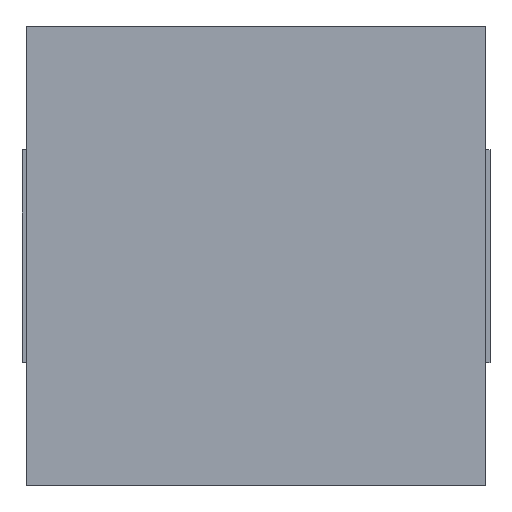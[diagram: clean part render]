
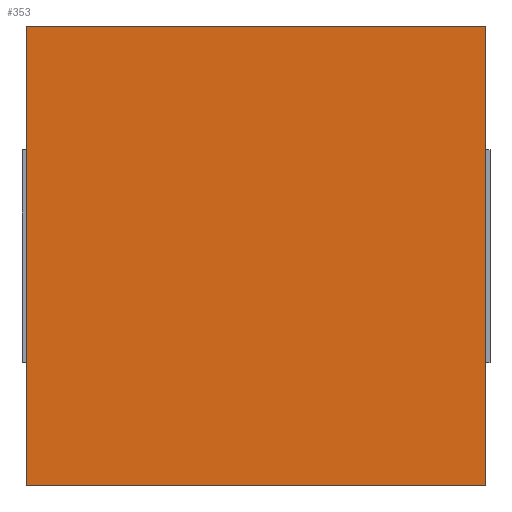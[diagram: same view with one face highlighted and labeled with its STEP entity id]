
A CAD part, top view. The second image highlights one B-rep face of the part: STEP entity #353.
In plain terms, the highlighted planar face has unit normal (0, 0, 1).
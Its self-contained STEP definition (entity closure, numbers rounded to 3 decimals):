
#39 = VERTEX_POINT('',#40);
#40 = CARTESIAN_POINT('',(-2.7,2.7,2.));
#47 = PLANE('',#48);
#48 = AXIS2_PLACEMENT_3D('',#49,#50,#51);
#49 = CARTESIAN_POINT('',(-2.7,2.7,0.));
#50 = DIRECTION('',(0.,1.,0.));
#51 = DIRECTION('',(1.,0.,0.));
#59 = PLANE('',#60);
#60 = AXIS2_PLACEMENT_3D('',#61,#62,#63);
#61 = CARTESIAN_POINT('',(-2.7,-2.7,0.));
#62 = DIRECTION('',(-1.,0.,0.));
#63 = DIRECTION('',(0.,1.,0.));
#71 = EDGE_CURVE('',#39,#72,#74,.T.);
#72 = VERTEX_POINT('',#73);
#73 = CARTESIAN_POINT('',(2.7,2.7,2.));
#74 = SURFACE_CURVE('',#75,(#79,#86),.PCURVE_S1.);
#75 = LINE('',#76,#77);
#76 = CARTESIAN_POINT('',(-2.7,2.7,2.));
#77 = VECTOR('',#78,1.);
#78 = DIRECTION('',(1.,0.,0.));
#79 = PCURVE('',#47,#80);
#80 = DEFINITIONAL_REPRESENTATION('',(#81),#85);
#81 = LINE('',#82,#83);
#82 = CARTESIAN_POINT('',(0.,-2.));
#83 = VECTOR('',#84,1.);
#84 = DIRECTION('',(1.,0.));
#85 = ( GEOMETRIC_REPRESENTATION_CONTEXT(2) 
PARAMETRIC_REPRESENTATION_CONTEXT() REPRESENTATION_CONTEXT('2D SPACE',''
  ) );
#86 = PCURVE('',#87,#92);
#87 = PLANE('',#88);
#88 = AXIS2_PLACEMENT_3D('',#89,#90,#91);
#89 = CARTESIAN_POINT('',(0.,0.,2.));
#90 = DIRECTION('',(0.,0.,-1.));
#91 = DIRECTION('',(-1.,0.,0.));
#92 = DEFINITIONAL_REPRESENTATION('',(#93),#97);
#93 = LINE('',#94,#95);
#94 = CARTESIAN_POINT('',(2.7,2.7));
#95 = VECTOR('',#96,1.);
#96 = DIRECTION('',(-1.,0.));
#97 = ( GEOMETRIC_REPRESENTATION_CONTEXT(2) 
PARAMETRIC_REPRESENTATION_CONTEXT() REPRESENTATION_CONTEXT('2D SPACE',''
  ) );
#115 = PLANE('',#116);
#116 = AXIS2_PLACEMENT_3D('',#117,#118,#119);
#117 = CARTESIAN_POINT('',(2.7,2.7,0.));
#118 = DIRECTION('',(1.,0.,-0.));
#119 = DIRECTION('',(0.,-1.,0.));
#157 = EDGE_CURVE('',#72,#158,#160,.T.);
#158 = VERTEX_POINT('',#159);
#159 = CARTESIAN_POINT('',(2.7,-2.7,2.));
#160 = SURFACE_CURVE('',#161,(#165,#172),.PCURVE_S1.);
#161 = LINE('',#162,#163);
#162 = CARTESIAN_POINT('',(2.7,2.7,2.));
#163 = VECTOR('',#164,1.);
#164 = DIRECTION('',(0.,-1.,0.));
#165 = PCURVE('',#115,#166);
#166 = DEFINITIONAL_REPRESENTATION('',(#167),#171);
#167 = LINE('',#168,#169);
#168 = CARTESIAN_POINT('',(0.,-2.));
#169 = VECTOR('',#170,1.);
#170 = DIRECTION('',(1.,0.));
#171 = ( GEOMETRIC_REPRESENTATION_CONTEXT(2) 
PARAMETRIC_REPRESENTATION_CONTEXT() REPRESENTATION_CONTEXT('2D SPACE',''
  ) );
#172 = PCURVE('',#87,#173);
#173 = DEFINITIONAL_REPRESENTATION('',(#174),#178);
#174 = LINE('',#175,#176);
#175 = CARTESIAN_POINT('',(-2.7,2.7));
#176 = VECTOR('',#177,1.);
#177 = DIRECTION('',(0.,-1.));
#178 = ( GEOMETRIC_REPRESENTATION_CONTEXT(2) 
PARAMETRIC_REPRESENTATION_CONTEXT() REPRESENTATION_CONTEXT('2D SPACE',''
  ) );
#196 = PLANE('',#197);
#197 = AXIS2_PLACEMENT_3D('',#198,#199,#200);
#198 = CARTESIAN_POINT('',(2.7,-2.7,0.));
#199 = DIRECTION('',(0.,-1.,0.));
#200 = DIRECTION('',(-1.,0.,0.));
#233 = EDGE_CURVE('',#158,#234,#236,.T.);
#234 = VERTEX_POINT('',#235);
#235 = CARTESIAN_POINT('',(-2.7,-2.7,2.));
#236 = SURFACE_CURVE('',#237,(#241,#248),.PCURVE_S1.);
#237 = LINE('',#238,#239);
#238 = CARTESIAN_POINT('',(2.7,-2.7,2.));
#239 = VECTOR('',#240,1.);
#240 = DIRECTION('',(-1.,0.,0.));
#241 = PCURVE('',#196,#242);
#242 = DEFINITIONAL_REPRESENTATION('',(#243),#247);
#243 = LINE('',#244,#245);
#244 = CARTESIAN_POINT('',(0.,-2.));
#245 = VECTOR('',#246,1.);
#246 = DIRECTION('',(1.,0.));
#247 = ( GEOMETRIC_REPRESENTATION_CONTEXT(2) 
PARAMETRIC_REPRESENTATION_CONTEXT() REPRESENTATION_CONTEXT('2D SPACE',''
  ) );
#248 = PCURVE('',#87,#249);
#249 = DEFINITIONAL_REPRESENTATION('',(#250),#254);
#250 = LINE('',#251,#252);
#251 = CARTESIAN_POINT('',(-2.7,-2.7));
#252 = VECTOR('',#253,1.);
#253 = DIRECTION('',(1.,0.));
#254 = ( GEOMETRIC_REPRESENTATION_CONTEXT(2) 
PARAMETRIC_REPRESENTATION_CONTEXT() REPRESENTATION_CONTEXT('2D SPACE',''
  ) );
#304 = EDGE_CURVE('',#234,#39,#305,.T.);
#305 = SURFACE_CURVE('',#306,(#310,#317),.PCURVE_S1.);
#306 = LINE('',#307,#308);
#307 = CARTESIAN_POINT('',(-2.7,-2.7,2.));
#308 = VECTOR('',#309,1.);
#309 = DIRECTION('',(0.,1.,0.));
#310 = PCURVE('',#59,#311);
#311 = DEFINITIONAL_REPRESENTATION('',(#312),#316);
#312 = LINE('',#313,#314);
#313 = CARTESIAN_POINT('',(0.,-2.));
#314 = VECTOR('',#315,1.);
#315 = DIRECTION('',(1.,0.));
#316 = ( GEOMETRIC_REPRESENTATION_CONTEXT(2) 
PARAMETRIC_REPRESENTATION_CONTEXT() REPRESENTATION_CONTEXT('2D SPACE',''
  ) );
#317 = PCURVE('',#87,#318);
#318 = DEFINITIONAL_REPRESENTATION('',(#319),#323);
#319 = LINE('',#320,#321);
#320 = CARTESIAN_POINT('',(2.7,-2.7));
#321 = VECTOR('',#322,1.);
#322 = DIRECTION('',(0.,1.));
#323 = ( GEOMETRIC_REPRESENTATION_CONTEXT(2) 
PARAMETRIC_REPRESENTATION_CONTEXT() REPRESENTATION_CONTEXT('2D SPACE',''
  ) );
#353 = ADVANCED_FACE('',(#354),#87,.F.);
#354 = FACE_BOUND('',#355,.F.);
#355 = EDGE_LOOP('',(#356,#357,#358,#359));
#356 = ORIENTED_EDGE('',*,*,#71,.T.);
#357 = ORIENTED_EDGE('',*,*,#157,.T.);
#358 = ORIENTED_EDGE('',*,*,#233,.T.);
#359 = ORIENTED_EDGE('',*,*,#304,.T.);
